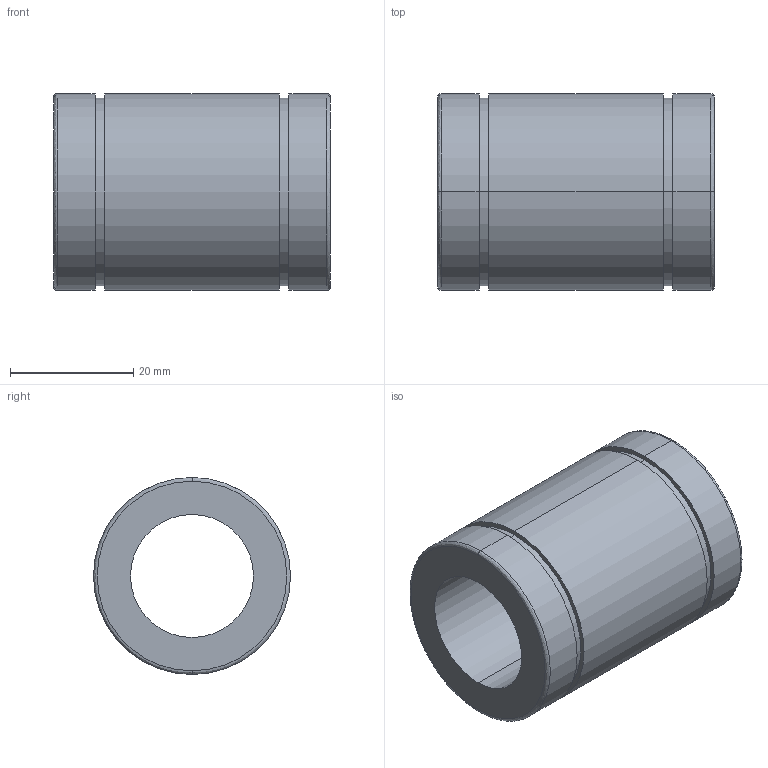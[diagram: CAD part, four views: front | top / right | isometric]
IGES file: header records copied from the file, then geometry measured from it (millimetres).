
Start section: 3D InterOp IGES (Version 21 0 1), Spatial Corp. Copyright (c) 1999-2007.
Global section: file name: L-20V.igs; native system: Spatial Corp.; preprocessor: 3D InterOp GENERIC/IGES 3.0; author: Noname; organization: Noname; date: 20220516.093855; units: millimetre
Bounding box: 45 x 32 x 32 mm (x, y, z)
Surface area: 8558.9 mm2 (no closed solid volume)
Topology: 0 solids, 0 shells, 22 faces, 88 edges, 88 vertices
Faces by surface type: revolution 16, extrusion 6
